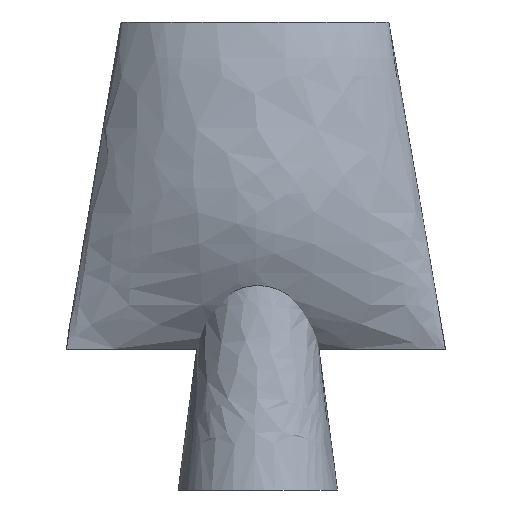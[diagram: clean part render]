
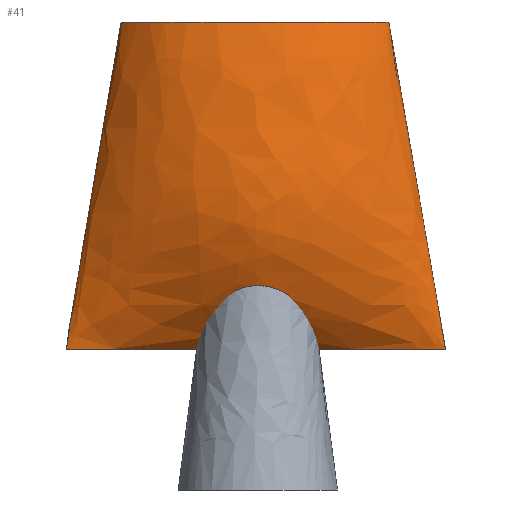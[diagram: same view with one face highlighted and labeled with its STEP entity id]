
A CAD part, front view. The second image highlights one B-rep face of the part: STEP entity #41.
In plain terms, the highlighted free-form (B-spline) face has degree [4, 4] with [8, 8] control points.
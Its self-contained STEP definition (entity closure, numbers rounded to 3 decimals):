
#23=B_SPLINE_SURFACE_WITH_KNOTS('',4,4,((#3555,#3556,#3557,#3558,#3559,
#3560,#3561,#3562),(#3563,#3564,#3565,#3566,#3567,#3568,#3569,#3570),(#3571,
#3572,#3573,#3574,#3575,#3576,#3577,#3578),(#3579,#3580,#3581,#3582,#3583,
#3584,#3585,#3586),(#3587,#3588,#3589,#3590,#3591,#3592,#3593,#3594),(#3595,
#3596,#3597,#3598,#3599,#3600,#3601,#3602),(#3603,#3604,#3605,#3606,#3607,
#3608,#3609,#3610),(#3611,#3612,#3613,#3614,#3615,#3616,#3617,#3618)),
 .UNSPECIFIED.,.F.,.F.,.F.,(5,1,1,1,5),(5,1,1,1,5),(0.,59.177,
118.354,177.531,236.708),(25.,31.25,37.5,43.75,
50.),.UNSPECIFIED.);
#41=ADVANCED_FACE('',(#52),#23,.T.);
#52=FACE_OUTER_BOUND('',#63,.T.);
#63=EDGE_LOOP('',(#99,#100,#101,#102));
#99=ORIENTED_EDGE('',*,*,#131,.T.);
#100=ORIENTED_EDGE('',*,*,#132,.T.);
#101=ORIENTED_EDGE('',*,*,#128,.F.);
#102=ORIENTED_EDGE('',*,*,#130,.T.);
#128=EDGE_CURVE('',#175,#176,#153,.T.);
#130=EDGE_CURVE('',#175,#177,#155,.T.);
#131=EDGE_CURVE('',#177,#178,#156,.T.);
#132=EDGE_CURVE('',#178,#176,#157,.T.);
#153=B_SPLINE_CURVE_WITH_KNOTS('',4,(#3687,#3688,#3689,#3690,#3691,#3692,
#3693,#3694),.UNSPECIFIED.,.F.,.F.,(5,1,1,1,5),(0.,59.177,118.354,
177.531,236.708),.UNSPECIFIED.);
#155=B_SPLINE_CURVE_WITH_KNOTS('',4,(#3703,#3704,#3705,#3706,#3707,#3708,
#3709,#3710),.UNSPECIFIED.,.F.,.F.,(5,1,1,1,5),(-50.,-43.75,-37.5,-31.25,
-25.),.UNSPECIFIED.);
#156=B_SPLINE_CURVE_WITH_KNOTS('',4,(#3711,#3712,#3713,#3714,#3715,#3716,
#3717,#3718),.UNSPECIFIED.,.F.,.F.,(5,1,1,1,5),(0.,59.177,118.354,
177.531,236.708),.UNSPECIFIED.);
#157=B_SPLINE_CURVE_WITH_KNOTS('',4,(#3719,#3720,#3721,#3722,#3723,#3724,
#3725,#3726),.UNSPECIFIED.,.F.,.F.,(5,1,1,1,5),(25.,31.25,37.5,43.75,50.),
 .UNSPECIFIED.);
#175=VERTEX_POINT('',#3683);
#176=VERTEX_POINT('',#3684);
#177=VERTEX_POINT('',#3685);
#178=VERTEX_POINT('',#3686);
#3555=CARTESIAN_POINT('',(-73.491,9.057,252.43));
#3556=CARTESIAN_POINT('',(-73.197,7.053,252.43));
#3557=CARTESIAN_POINT('',(-68.392,3.,252.43));
#3558=CARTESIAN_POINT('',(-48.662,-24.231,252.43));
#3559=CARTESIAN_POINT('',(48.148,-22.501,252.43));
#3560=CARTESIAN_POINT('',(66.718,3.319,252.43));
#3561=CARTESIAN_POINT('',(70.738,7.092,252.43));
#3562=CARTESIAN_POINT('',(70.542,9.108,252.43));
#3563=CARTESIAN_POINT('',(-76.035,9.064,237.758));
#3564=CARTESIAN_POINT('',(-75.944,5.295,237.758));
#3565=CARTESIAN_POINT('',(-70.458,-2.254,237.758));
#3566=CARTESIAN_POINT('',(-45.788,-27.608,237.758));
#3567=CARTESIAN_POINT('',(45.6,-26.335,237.758));
#3568=CARTESIAN_POINT('',(68.086,-2.019,237.758));
#3569=CARTESIAN_POINT('',(73.316,5.478,237.758));
#3570=CARTESIAN_POINT('',(73.289,9.307,237.758));
#3571=CARTESIAN_POINT('',(-80.94,8.807,208.714));
#3572=CARTESIAN_POINT('',(-80.671,4.674,208.714));
#3573=CARTESIAN_POINT('',(-73.001,-3.601,208.714));
#3574=CARTESIAN_POINT('',(-40.708,-31.841,208.714));
#3575=CARTESIAN_POINT('',(39.883,-30.81,208.714));
#3576=CARTESIAN_POINT('',(71.092,-3.032,208.714));
#3577=CARTESIAN_POINT('',(78.163,5.179,208.714));
#3578=CARTESIAN_POINT('',(78.093,9.322,208.714));
#3579=CARTESIAN_POINT('',(-88.527,7.944,165.003));
#3580=CARTESIAN_POINT('',(-88.271,3.045,165.003));
#3581=CARTESIAN_POINT('',(-78.099,-6.619,165.003));
#3582=CARTESIAN_POINT('',(-34.963,-37.139,165.003));
#3583=CARTESIAN_POINT('',(34.067,-37.2,165.003));
#3584=CARTESIAN_POINT('',(76.611,-4.767,165.003));
#3585=CARTESIAN_POINT('',(86.156,4.41,165.003));
#3586=CARTESIAN_POINT('',(86.084,8.968,165.003));
#3587=CARTESIAN_POINT('',(-94.109,7.766,131.18));
#3588=CARTESIAN_POINT('',(-93.901,3.109,131.531));
#3589=CARTESIAN_POINT('',(-81.668,-6.24,132.467));
#3590=CARTESIAN_POINT('',(-28.902,-34.58,132.467));
#3591=CARTESIAN_POINT('',(27.11,-34.374,132.467));
#3592=CARTESIAN_POINT('',(79.738,-3.856,132.467));
#3593=CARTESIAN_POINT('',(91.148,4.808,132.426));
#3594=CARTESIAN_POINT('',(90.951,9.028,132.411));
#3595=CARTESIAN_POINT('',(-96.7,7.838,110.406));
#3596=CARTESIAN_POINT('',(-96.219,4.208,110.406));
#3597=CARTESIAN_POINT('',(-82.01,-2.764,110.406));
#3598=CARTESIAN_POINT('',(-24.385,-21.055,110.406));
#3599=CARTESIAN_POINT('',(22.794,-21.607,110.406));
#3600=CARTESIAN_POINT('',(82.579,-0.559,110.406));
#3601=CARTESIAN_POINT('',(95.504,5.863,110.406));
#3602=CARTESIAN_POINT('',(95.281,9.051,110.406));
#3603=CARTESIAN_POINT('',(-101.363,7.72,91.285));
#3604=CARTESIAN_POINT('',(-100.89,4.762,91.285));
#3605=CARTESIAN_POINT('',(-85.243,-0.55,91.285));
#3606=CARTESIAN_POINT('',(-20.701,-10.903,91.285));
#3607=CARTESIAN_POINT('',(18.324,-11.037,91.285));
#3608=CARTESIAN_POINT('',(83.884,2.193,91.285));
#3609=CARTESIAN_POINT('',(98.346,6.871,91.285));
#3610=CARTESIAN_POINT('',(98.252,9.355,91.285));
#3611=CARTESIAN_POINT('',(-102.791,6.372,76.555));
#3612=CARTESIAN_POINT('',(-102.28,5.635,76.555));
#3613=CARTESIAN_POINT('',(-84.476,4.674,76.555));
#3614=CARTESIAN_POINT('',(-10.881,9.187,76.555));
#3615=CARTESIAN_POINT('',(9.373,9.221,76.555));
#3616=CARTESIAN_POINT('',(84.693,9.106,76.555));
#3617=CARTESIAN_POINT('',(101.146,9.083,76.555));
#3618=CARTESIAN_POINT('',(100.952,9.083,76.555));
#3683=CARTESIAN_POINT('',(70.542,9.108,252.43));
#3684=CARTESIAN_POINT('',(100.952,9.083,76.555));
#3685=CARTESIAN_POINT('',(-73.491,9.057,252.43));
#3686=CARTESIAN_POINT('',(-102.791,6.372,76.555));
#3687=CARTESIAN_POINT('',(70.542,9.108,252.43));
#3688=CARTESIAN_POINT('',(73.289,9.307,237.758));
#3689=CARTESIAN_POINT('',(78.093,9.322,208.714));
#3690=CARTESIAN_POINT('',(86.084,8.968,165.003));
#3691=CARTESIAN_POINT('',(90.951,9.028,132.411));
#3692=CARTESIAN_POINT('',(95.281,9.051,110.406));
#3693=CARTESIAN_POINT('',(98.252,9.355,91.285));
#3694=CARTESIAN_POINT('',(100.952,9.083,76.555));
#3703=CARTESIAN_POINT('',(70.542,9.108,252.43));
#3704=CARTESIAN_POINT('',(70.738,7.092,252.43));
#3705=CARTESIAN_POINT('',(66.718,3.319,252.43));
#3706=CARTESIAN_POINT('',(48.148,-22.501,252.43));
#3707=CARTESIAN_POINT('',(-48.662,-24.231,252.43));
#3708=CARTESIAN_POINT('',(-68.392,3.,252.43));
#3709=CARTESIAN_POINT('',(-73.197,7.053,252.43));
#3710=CARTESIAN_POINT('',(-73.491,9.057,252.43));
#3711=CARTESIAN_POINT('',(-73.491,9.057,252.43));
#3712=CARTESIAN_POINT('',(-76.035,9.064,237.758));
#3713=CARTESIAN_POINT('',(-80.94,8.807,208.714));
#3714=CARTESIAN_POINT('',(-88.527,7.944,165.003));
#3715=CARTESIAN_POINT('',(-94.109,7.766,131.18));
#3716=CARTESIAN_POINT('',(-96.7,7.838,110.406));
#3717=CARTESIAN_POINT('',(-101.363,7.72,91.285));
#3718=CARTESIAN_POINT('',(-102.791,6.372,76.555));
#3719=CARTESIAN_POINT('',(-102.791,6.372,76.555));
#3720=CARTESIAN_POINT('',(-102.28,5.635,76.555));
#3721=CARTESIAN_POINT('',(-84.476,4.674,76.555));
#3722=CARTESIAN_POINT('',(-10.881,9.187,76.555));
#3723=CARTESIAN_POINT('',(9.373,9.221,76.555));
#3724=CARTESIAN_POINT('',(84.693,9.106,76.555));
#3725=CARTESIAN_POINT('',(101.146,9.083,76.555));
#3726=CARTESIAN_POINT('',(100.952,9.083,76.555));
